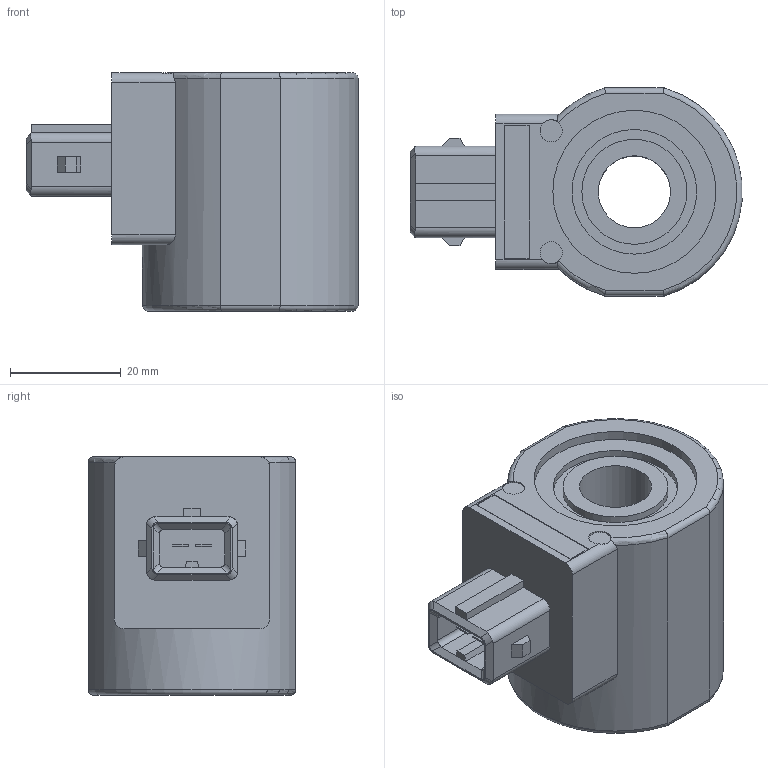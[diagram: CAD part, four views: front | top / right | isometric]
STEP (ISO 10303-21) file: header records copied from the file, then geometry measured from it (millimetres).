
FILE_DESCRIPTION((''),'2;1');
FILE_NAME('Q:\Delta CADD Insertion Codes\3D Solid models\Coils\STEP\PIJ.stp','2012-06-04T10:06:52',('Dan'),(''),'Autodesk Inventor 2012','Autodesk Inventor 2012','');
FILE_SCHEMA(('AUTOMOTIVE_DESIGN { 1 0 10303 214 1 1 1 1 }'));
Length unit declared in the file: inch
Products named in the file (1): Part30
Bounding box: 59.93 x 37.5 x 43 mm (x, y, z)
Volume: 51294.3 mm3; surface area: 12055.8 mm2
Topology: 1 solids, 1 shells, 113 faces, 284 edges, 186 vertices
Faces by surface type: plane 73, cylinder 35, torus 5
Full cylindrical faces by diameter (mm): 4 x2, 13.005 x1, 18.948 x2, 22.504 x2, 29.439 x1, 29.997 x1
Entity records: 3484 total; most frequent: CARTESIAN_POINT 765, DIRECTION 554, ORIENTED_EDGE 542, EDGE_CURVE 271, AXIS2_PLACEMENT_3D 187, VERTEX_POINT 182, VECTOR 180, LINE 180
